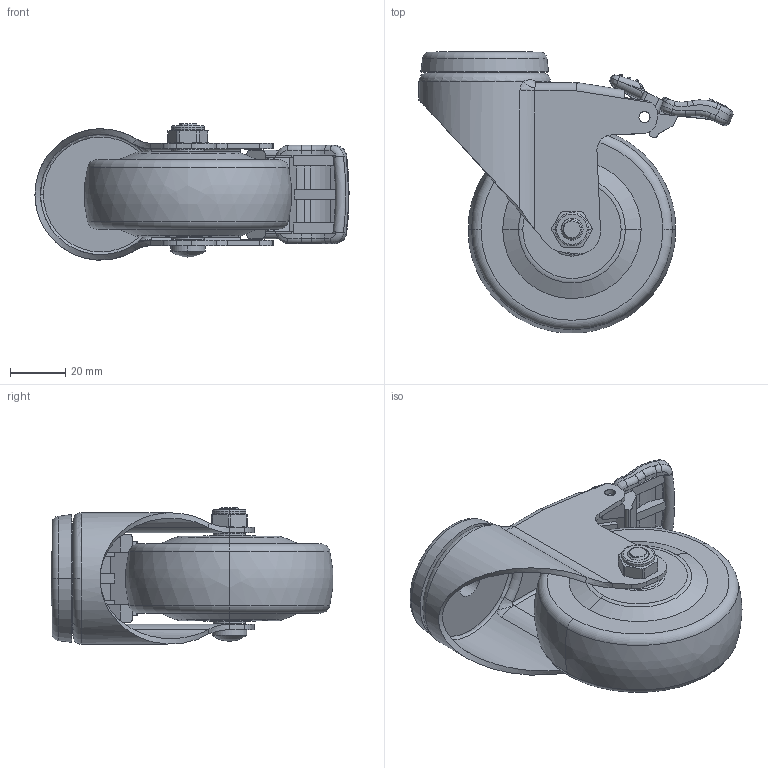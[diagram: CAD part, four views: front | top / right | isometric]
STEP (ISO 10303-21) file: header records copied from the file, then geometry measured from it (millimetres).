
FILE_DESCRIPTION((''),'2;1');
FILE_NAME('361125-3625-64_ASM','2020-01-03T',('L'),(''),'PRO/ENGINEER BY PARAMETRIC TECHNOLOGY CORPORATION, 2010280','PRO/ENGINEER BY PARAMETRIC TECHNOLOGY CORPORATION, 2010280','');
FILE_SCHEMA(('CONFIG_CONTROL_DESIGN'));
Length unit declared in the file: millimetre
Products named in the file (6): 36183H; 363-964; 350-33A; 300-34; 3601-64; 361125-3625-64_ASM
Assembly tree (5 placements, depth 2):
  361125-3625-64_ASM
    36183H
    363-964
    350-33A
    300-34
    3601-64
Bounding box: 113.44 x 101.71 x 49.22 mm (x, y, z)
Volume: 152502.2 mm3; surface area: 43283.1 mm2
Topology: 5 solids, 5 shells, 441 faces, 1108 edges, 688 vertices
Faces by surface type: cylinder 150, plane 141, bspline 64, torus 40, cone 32, sphere 14
Entity records: 20168 total; most frequent: CARTESIAN_POINT 9956, ORIENTED_EDGE 2212, DIRECTION 1963, EDGE_CURVE 1106, AXIS2_PLACEMENT_3D 749, VERTEX_POINT 688, EDGE_LOOP 472, VECTOR 465
